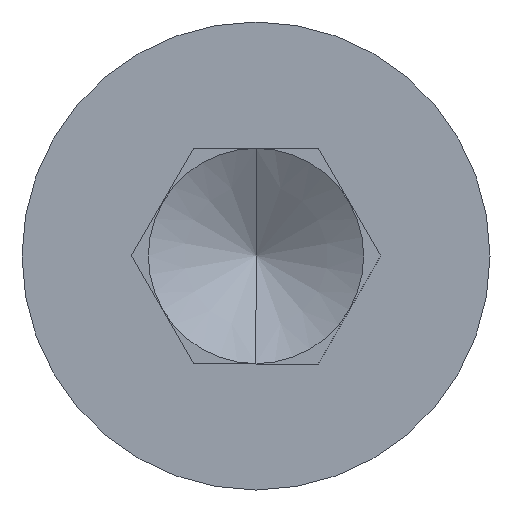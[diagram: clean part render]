
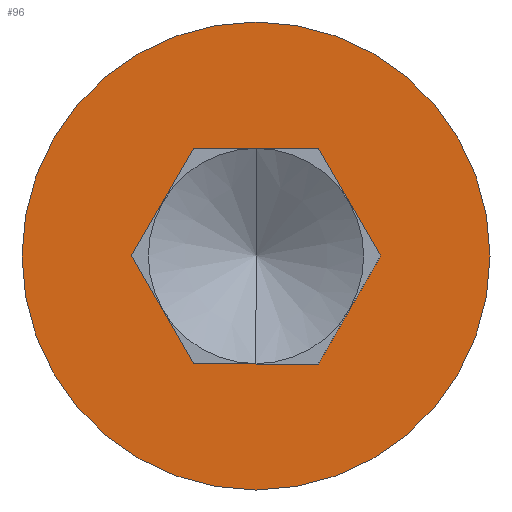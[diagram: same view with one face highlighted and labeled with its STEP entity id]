
A CAD part, left-side view. The second image highlights one B-rep face of the part: STEP entity #96.
In plain terms, the highlighted planar face has unit normal (-1, 0, 0).
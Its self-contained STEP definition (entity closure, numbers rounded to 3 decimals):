
#2 = EDGE_CURVE ( 'NONE', #444, #429, #461, .T. ) ;
#13 = DIRECTION ( 'NONE',  ( 0., 0., 1. ) ) ;
#18 = EDGE_CURVE ( 'NONE', #325, #107, #345, .T. ) ;
#25 = CARTESIAN_POINT ( 'NONE',  ( -8., 0., 0. ) ) ;
#27 = AXIS2_PLACEMENT_3D ( 'NONE', #25, #324, #74 ) ;
#31 = VERTEX_POINT ( 'NONE', #114 ) ;
#34 = DIRECTION ( 'NONE',  ( 0., 0., 1. ) ) ;
#47 = LINE ( 'NONE', #554, #155 ) ;
#52 = FACE_OUTER_BOUND ( 'NONE', #395, .T. ) ;
#61 = ORIENTED_EDGE ( 'NONE', *, *, #347, .F. ) ;
#74 = DIRECTION ( 'NONE',  ( 0., 0., 1. ) ) ;
#80 = ORIENTED_EDGE ( 'NONE', *, *, #294, .F. ) ;
#84 = CARTESIAN_POINT ( 'NONE',  ( -8., 3.464, 0. ) ) ;
#89 = VERTEX_POINT ( 'NONE', #95 ) ;
#91 = LINE ( 'NONE', #190, #196 ) ;
#95 = CARTESIAN_POINT ( 'NONE',  ( -8., 1.732, 3. ) ) ;
#96 = ADVANCED_FACE ( 'NONE', ( #163, #52 ), #342, .T. ) ;
#107 = VERTEX_POINT ( 'NONE', #199 ) ;
#114 = CARTESIAN_POINT ( 'NONE',  ( -8., 1.732, -3. ) ) ;
#115 = ORIENTED_EDGE ( 'NONE', *, *, #259, .F. ) ;
#120 = CARTESIAN_POINT ( 'NONE',  ( -8., 0., -6.5 ) ) ;
#122 = VECTOR ( 'NONE', #489, 1000. ) ;
#129 = ORIENTED_EDGE ( 'NONE', *, *, #230, .F. ) ;
#155 = VECTOR ( 'NONE', #466, 1000. ) ;
#156 = VERTEX_POINT ( 'NONE', #329 ) ;
#160 = ORIENTED_EDGE ( 'NONE', *, *, #469, .F. ) ;
#163 = FACE_BOUND ( 'NONE', #333, .T. ) ;
#189 = CARTESIAN_POINT ( 'NONE',  ( -8., -1.732, 3. ) ) ;
#190 = CARTESIAN_POINT ( 'NONE',  ( -8., 1.732, 3. ) ) ;
#196 = VECTOR ( 'NONE', #361, 1000. ) ;
#197 = VECTOR ( 'NONE', #351, 1000. ) ;
#199 = CARTESIAN_POINT ( 'NONE',  ( -8., -3.464, 0. ) ) ;
#219 = LINE ( 'NONE', #492, #468 ) ;
#224 = AXIS2_PLACEMENT_3D ( 'NONE', #442, #270, #13 ) ;
#226 = DIRECTION ( 'NONE',  ( 0., 1., 0. ) ) ;
#230 = EDGE_CURVE ( 'NONE', #107, #393, #219, .T. ) ;
#259 = EDGE_CURVE ( 'NONE', #393, #89, #427, .T. ) ;
#266 = AXIS2_PLACEMENT_3D ( 'NONE', #550, #289, #34 ) ;
#270 = DIRECTION ( 'NONE',  ( -1., 0., 0. ) ) ;
#289 = DIRECTION ( 'NONE',  ( -1., 0., 0. ) ) ;
#294 = EDGE_CURVE ( 'NONE', #89, #156, #91, .T. ) ;
#306 = VECTOR ( 'NONE', #226, 1000. ) ;
#324 = DIRECTION ( 'NONE',  ( -1., 0., 0. ) ) ;
#325 = VERTEX_POINT ( 'NONE', #422 ) ;
#329 = CARTESIAN_POINT ( 'NONE',  ( -8., 3.464, 0. ) ) ;
#333 = EDGE_LOOP ( 'NONE', ( #115, #129, #416, #61, #160, #80 ) ) ;
#342 = PLANE ( 'NONE',  #27 ) ;
#345 = LINE ( 'NONE', #534, #122 ) ;
#347 = EDGE_CURVE ( 'NONE', #31, #325, #47, .T. ) ;
#351 = DIRECTION ( 'NONE',  ( 0., -0.5, -0.866 ) ) ;
#361 = DIRECTION ( 'NONE',  ( 0., 0.5, -0.866 ) ) ;
#393 = VERTEX_POINT ( 'NONE', #553 ) ;
#395 = EDGE_LOOP ( 'NONE', ( #417, #477 ) ) ;
#416 = ORIENTED_EDGE ( 'NONE', *, *, #18, .F. ) ;
#417 = ORIENTED_EDGE ( 'NONE', *, *, #434, .T. ) ;
#419 = CARTESIAN_POINT ( 'NONE',  ( -8., 0., 6.5 ) ) ;
#422 = CARTESIAN_POINT ( 'NONE',  ( -8., -1.732, -3. ) ) ;
#427 = LINE ( 'NONE', #189, #306 ) ;
#429 = VERTEX_POINT ( 'NONE', #419 ) ;
#434 = EDGE_CURVE ( 'NONE', #429, #444, #437, .T. ) ;
#437 = CIRCLE ( 'NONE', #266, 6.5 ) ;
#442 = CARTESIAN_POINT ( 'NONE',  ( -8., 0., 0. ) ) ;
#443 = DIRECTION ( 'NONE',  ( 0., 0.5, 0.866 ) ) ;
#444 = VERTEX_POINT ( 'NONE', #120 ) ;
#461 = CIRCLE ( 'NONE', #224, 6.5 ) ;
#466 = DIRECTION ( 'NONE',  ( 0., -1., 0. ) ) ;
#468 = VECTOR ( 'NONE', #443, 1000. ) ;
#469 = EDGE_CURVE ( 'NONE', #156, #31, #558, .T. ) ;
#477 = ORIENTED_EDGE ( 'NONE', *, *, #2, .T. ) ;
#489 = DIRECTION ( 'NONE',  ( 0., -0.5, 0.866 ) ) ;
#492 = CARTESIAN_POINT ( 'NONE',  ( -8., -3.464, 0. ) ) ;
#534 = CARTESIAN_POINT ( 'NONE',  ( -8., -1.732, -3. ) ) ;
#550 = CARTESIAN_POINT ( 'NONE',  ( -8., 0., 0. ) ) ;
#553 = CARTESIAN_POINT ( 'NONE',  ( -8., -1.732, 3. ) ) ;
#554 = CARTESIAN_POINT ( 'NONE',  ( -8., 1.732, -3. ) ) ;
#558 = LINE ( 'NONE', #84, #197 ) ;
